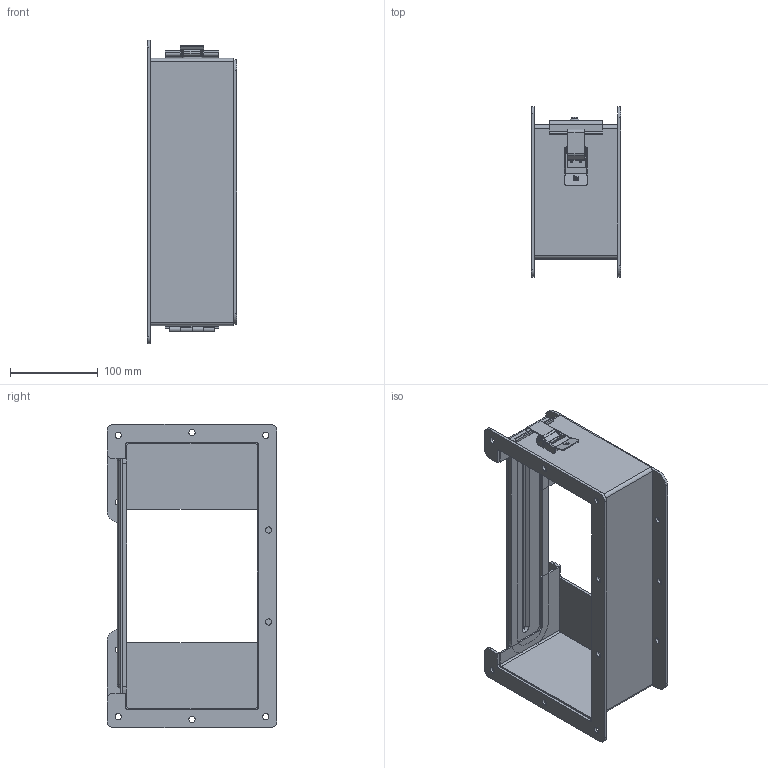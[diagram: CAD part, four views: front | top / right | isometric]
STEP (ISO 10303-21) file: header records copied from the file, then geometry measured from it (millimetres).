
FILE_DESCRIPTION (( 'STEP AP203' ), '1' );
FILE_NAME ('f126lre66.STEP', '2013-08-01T04:54:42', ( '' ), ( '' ), 'SwSTEP 2.0', 'SolidWorks 2010', '' );
FILE_SCHEMA (( 'CONFIG_CONTROL_DESIGN' ));
Length unit declared in the file: inch
Products named in the file (16): f126lre66; 89084123_CLOSED; 18224018; 14303025; 18305013; 89084118_CLOSED; 18225003; 14102015_CLOSE; 89047819_89047041; 89047820; 89047821; 14136001; 14141001_CLOSED; 14137001; 14138001; 89084134_14308801 
Assembly tree (15 placements, depth 5):
  f126lre66
    89084123_CLOSED
      14303025
      18305013
      18224018
      14136001
      89084118_CLOSED
        14102015_CLOSE
          89047819_89047041
          89047820
          89047821
        18225003
    89084134_14308801 
    14141001_CLOSED
      14137001
      14138001
Bounding box: 101.75 x 193.68 x 346.05 mm (x, y, z)
Volume: 347601.4 mm3; surface area: 312048.4 mm2
Topology: 11 solids, 11 shells, 719 faces, 1881 edges, 1209 vertices
Faces by surface type: plane 365, bspline 171, cylinder 151, torus 20, cone 12
Entity records: 35179 total; most frequent: CARTESIAN_POINT 16625, ORIENTED_EDGE 3750, DIRECTION 3009, EDGE_CURVE 1875, VERTEX_POINT 1209, LINE 1167, VECTOR 1167, AXIS2_PLACEMENT_3D 921
